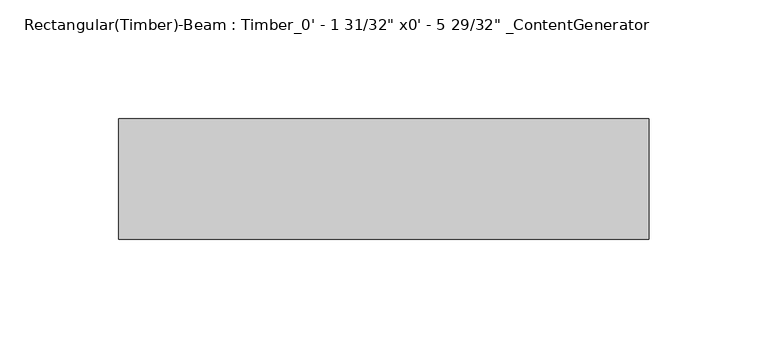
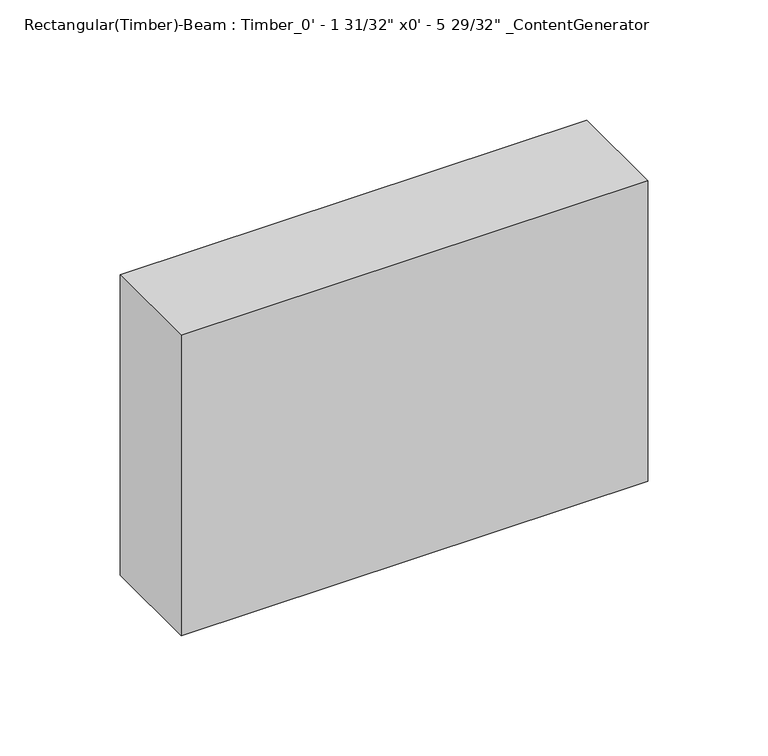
"""IFC4 building model written with IfcOpenShell, lengths in millimetres: beam geometry."""

from ifc_helpers import new_model, si_unit, frame, origin, place, context, project, spatial, polyline, outline, extrude, source, transform, mapped, element, save


def beam_239daab2(model_context):
    return source(origin(), model_context, "Body", "SweptSolid", [
        extrude(outline(polyline([(137.3253955, 25.4), (137.3253955, -25.4), (-86.5253961, -25.4), (-86.5253961, 25.4), (137.3253955, 25.4)])), frame((0.0, 0.0, -76.2), z_axis=(0.0, 0.0, 1.0), x_axis=(1.0, 0.0, 0.0)), (0.0, 0.0, 1.0), 152.4),
    ])


if __name__ == "__main__":
    model = new_model("IFC4")
    model_context = context("Model", 3, world=origin())
    ifc_project = project(units=[si_unit("LENGTHUNIT", "METRE", prefix="MILLI")], contexts=[model_context])
    site = spatial("IfcSite", under=ifc_project)
    building = spatial("IfcBuilding", under=site)
    placement = place(None, origin())
    beam_shape = beam_239daab2(model_context)
    element("IfcBeam", 1, ObjectType="Rectangular(Timber)-Beam : Timber_0' - 1 31/32\" x0' - 5 29/32\" _ContentGenerator", at=placement, inside=building, context=model_context, shape_type="MappedRepresentation", body=[
        mapped(beam_shape, transform((0.0, 0.0, 0.0), x_axis=(1.0, 0.0, 0.0), y_axis=(0.0, 1.0, 0.0), z_axis=(0.0, 0.0, 1.0))),
    ])
    save(model, "model.ifc")
